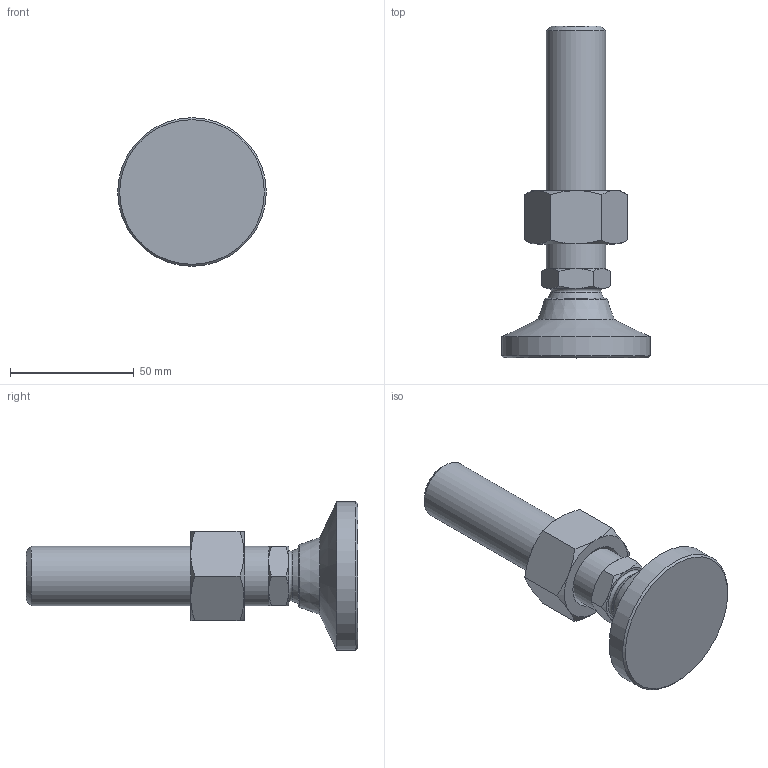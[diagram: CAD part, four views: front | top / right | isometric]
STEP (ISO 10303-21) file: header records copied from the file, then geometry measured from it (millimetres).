
FILE_DESCRIPTION( ( 'STEP AP214' ), ' ' );
FILE_NAME( 'O:/ganter_2015/teil_2/2_5/gn343_2/gn343_2_os/Levelling foot with threaded stud GN 343.2-60-M24-98-OS-(0).stp', '2015-10-26T09:08:59', ( '' ), ( '' ), ' ', 'PARTsolutions', ' ' );
FILE_SCHEMA( ( 'AUTOMOTIVE_DESIGN { 1 0 10303 214 1 1 1 1 }' ) );
Length unit declared in the file: millimetre
Products named in the file (4): Levelling foot with threaded stud GN 343.2-60-M24-98-OS-(0); _Levelling foot with threaded stud GN 343.2-60-M24-98-OS-(0)_foot; _Levelling foot with threaded stud GN 343.2-60-M24-98-OS-(0)_screw; _Stainless Steel-Levelling feet GN 343.2-60-M24-98-OS-(0)_nut
Assembly tree (3 placements, depth 2):
  Levelling foot with threaded stud GN 343.2-60-M24-98-OS-(0)
    _Levelling foot with threaded stud GN 343.2-60-M24-98-OS-(0)_foot
    _Levelling foot with threaded stud GN 343.2-60-M24-98-OS-(0)_screw
    _Stainless Steel-Levelling feet GN 343.2-60-M24-98-OS-(0)_nut
Bounding box: 60 x 134 x 60 mm (x, y, z)
Volume: 106970.1 mm3; surface area: 24013.8 mm2
Topology: 3 solids, 3 shells, 55 faces, 116 edges, 67 vertices
Faces by surface type: cone 30, plane 18, cylinder 3, torus 2, sphere 2
Full cylindrical faces by diameter (mm): 20.752 x1, 24 x1, 60 x1
Entity records: 2078 total; most frequent: CARTESIAN_POINT 535, DIRECTION 208, ORIENTED_EDGE 198, EDGE_CURVE 99, AXIS2_PLACEMENT_3D 98, EDGE_LOOP 70, VERTEX_POINT 65, FACE_OUTER_BOUND 60
